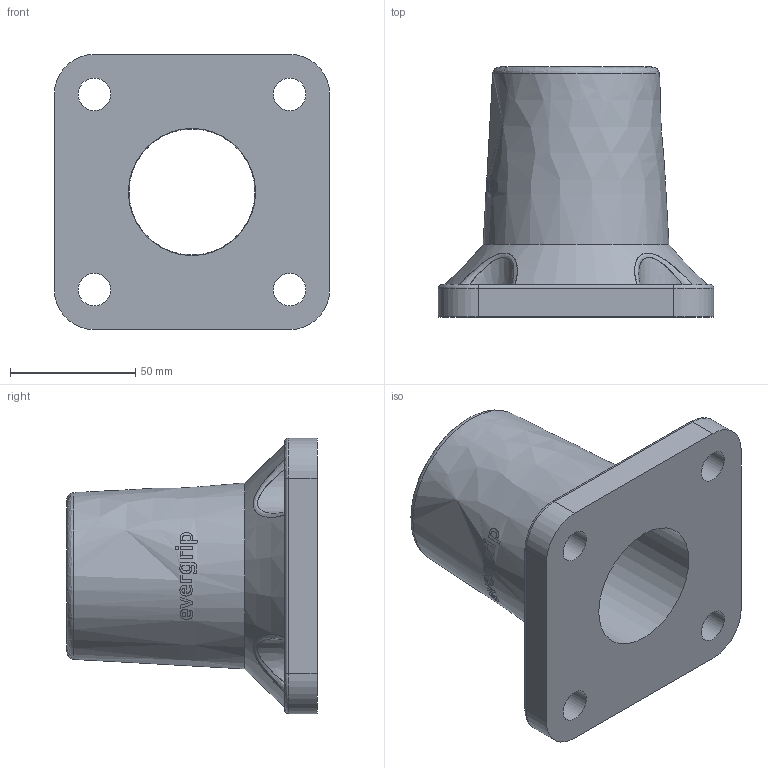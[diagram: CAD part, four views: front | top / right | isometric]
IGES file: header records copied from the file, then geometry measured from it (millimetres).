
Start section: SolidWorks IGES file using analytic representation for surfaces
Global section: file name: D:\Praca\Zlecenia prywatne\Konrad Izdebski Evergrip\KIE_018 Elementy z³¹czne\Dokumentacja\IGES\KIE_018.A18.IGS; native system: SolidWorks 2023; preprocessor: SolidWorks 2023; author: patry; date: 250218.105153; units: millimetre
Bounding box: 110 x 100 x 110 mm (x, y, z)
Surface area: 58892 mm2 (no closed solid volume)
Topology: 0 solids, 0 shells, 48 faces, 470 edges, 462 vertices
Faces by surface type: revolution 37, bspline 11
